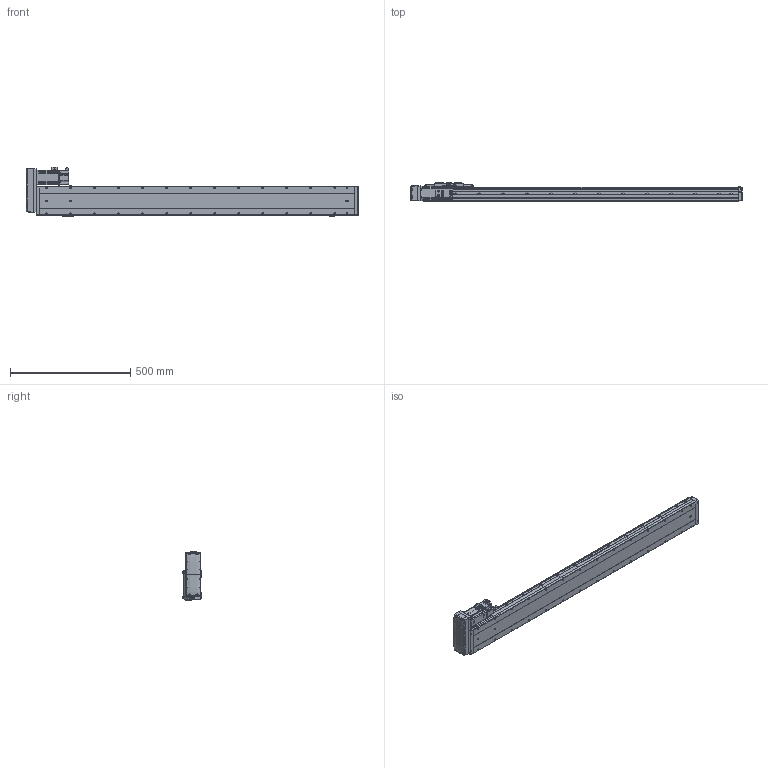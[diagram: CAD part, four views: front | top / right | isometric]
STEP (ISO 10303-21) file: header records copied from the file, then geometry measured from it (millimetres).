
FILE_DESCRIPTION (( 'STEP AP214' ), '1' );
FILE_NAME ('CTH12-L10-S1100-BL-C40（简）.STEP', '2023-02-06T03:15:18', ( '' ), ( '' ), 'SwSTEP 2.0', 'SolidWorks 2018', '' );
FILE_SCHEMA (( 'AUTOMOTIVE_DESIGN' ));
Length unit declared in the file: millimetre
Products named in the file (24): 400W萇儂; CTH400W假蚾啣; CTH12耜蚾裔; 湮賑怢  裔赽-1(CTH12)賑怢; CTH12賑怢ㄗ潠ㄘ; CTH400W垫板（3个厚）; CTH12賑怢郪磁; 内六角圆柱头螺钉M3-1; CTH嫖萇羲壽假蚾啣; 蚐郲; M5蹟隊; 内六角圆柱头螺钉M3; CTH12-L10-S1100-BL-C40（简）; 嫖萇羲壽郪磁1; 内六角圆柱头螺钉M3-2; CTH12覜茼え; CTH12; CTH12侧装连接板（标准）简; 嫖萇羲壽郪磁2; CTH12-BL_body_4; PM-Y45; CTH12_body_3; CTH12底座-L1311简（1100行程）; hex nuts, style 1-grades ab gb_GB_FASTENER_NUT_SNAB1 M3-N
Assembly tree (44 placements, depth 4):
  CTH12-L10-S1100-BL-C40（简）
    CTH12底座-L1311简（1100行程）
    蚐郲  x2
    CTH12_body_3
    CTH12-BL_body_4
    CTH12侧装连接板（标准）简
    CTH12耜蚾裔
    CTH12賑怢郪磁
      CTH12
        湮賑怢  裔赽-1(CTH12)賑怢
        CTH12賑怢ㄗ潠ㄘ
    CTH12覜茼え
    CTH400W垫板（3个厚）
    400W萇儂
    内六角圆柱头螺钉M3  x6
    M5蹟隊  x4
    嫖萇羲壽郪磁1
      CTH嫖萇羲壽假蚾啣
      PM-Y45
      内六角圆柱头螺钉M3-2  x2
      内六角圆柱头螺钉M3-1  x2
      hex nuts, style 1-grades ab gb_GB_FASTENER_NUT_SNAB1 M3-N  x2
    嫖萇羲壽郪磁2  x2
      CTH嫖萇羲壽假蚾啣
      PM-Y45
      内六角圆柱头螺钉M3-1
      内六角圆柱头螺钉M3-2
      hex nuts, style 1-grades ab gb_GB_FASTENER_NUT_SNAB1 M3-N
    CTH400W假蚾啣
Bounding box: 1381.5 x 76 x 205.26 mm (x, y, z)
Volume: 9148110.6 mm3; surface area: 849671.1 mm2
Topology: 47 solids, 48 shells, 3422 faces, 8557 edges, 5357 vertices
Faces by surface type: plane 1642, cylinder 971, cone 487, bspline 194, torus 124, sphere 4
Entity records: 113306 total; most frequent: CARTESIAN_POINT 41818, ORIENTED_EDGE 14216, DIRECTION 13490, EDGE_CURVE 7108, AXIS2_PLACEMENT_3D 4736, VERTEX_POINT 4461, LINE 4018, VECTOR 4018
